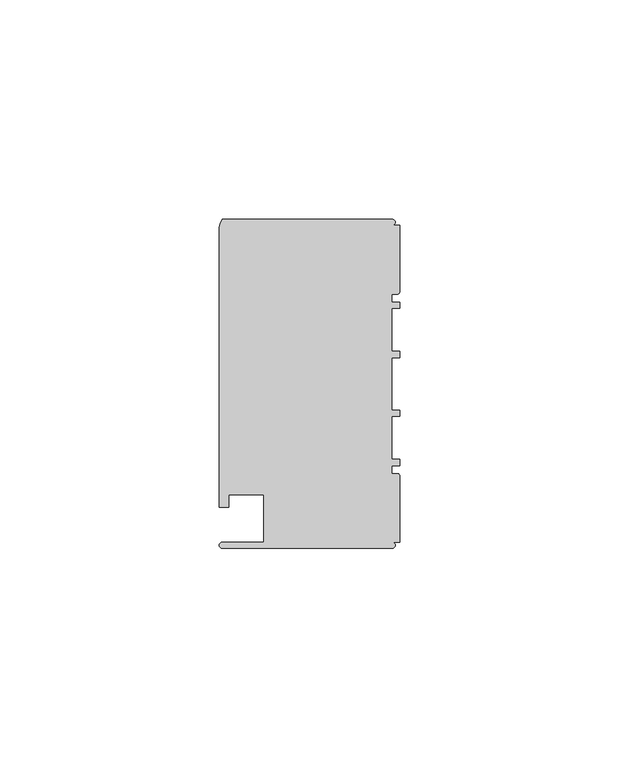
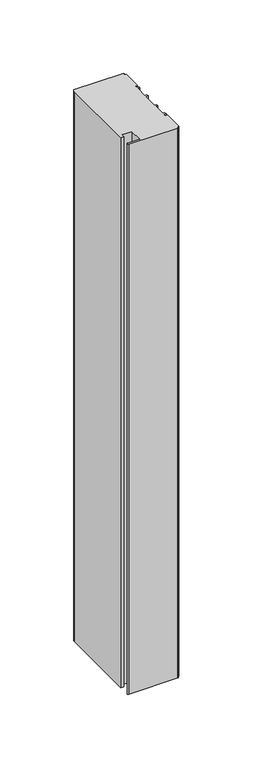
"""IFC4 building model written with IfcOpenShell, lengths in millimetres: member geometry, Прямоугольный импост : 1-AMG-1-Профиль 40Х75 Низ Л."""

from ifc_helpers import new_model, si_unit, point, frame, frame_2d, origin, place, context, project, spatial, polyline, circle_curve, trimmed, segment, composite_curve, outline, extrude, source, transform, mapped, element, save


def member_cfd8de3d(model_context):
    return source(origin(), model_context, "Body", "SweptSolid", [
        extrude(outline(composite_curve([segment(polyline([(-1.7, -37.5), (-40.4, -37.5)]), True, "CONTINUOUS"), segment(trimmed(circle_curve(frame_2d((-40.4, -36.8)), 0.7), [point((-40.4, -37.5))], [point((-40.4, -36.1))], False, "CARTESIAN"), True, "CONTINUOUS"), segment(polyline([(-40.4, -36.1), (-31.0, -36.1), (-31.0, -25.25), (-39.0, -25.25), (-39.0, -28.1), (-41.1, -28.1), (-41.1, 35.6)]), True, "CONTINUOUS"), segment(trimmed(circle_curve(frame_2d((-38.1714286, 35.6)), 2.9285714), [point((-41.1, 35.6))], [point((-40.4, 37.5))], False, "CARTESIAN"), True, "CONTINUOUS"), segment(polyline([(-40.4, 37.5), (-1.7, 37.5)]), True, "CONTINUOUS"), segment(trimmed(circle_curve(frame_2d((-1.7, 36.8)), 0.7), [point((-1.7, 37.5))], [point((-1.7, 36.1))], False, "CARTESIAN"), True, "CONTINUOUS"), segment(polyline([(-1.7, 36.1), (0.0, 36.1), (0.0, 20.95)]), True, "CONTINUOUS"), segment(trimmed(circle_curve(frame_2d((-0.5, 20.95)), 0.5), [point((0.0, 20.95))], [point((-0.5, 20.45))], False, "CARTESIAN"), True, "CONTINUOUS"), segment(polyline([(-0.5, 20.45), (-1.8, 20.45), (-1.8, 18.65), (0.0, 18.65), (0.0, 17.25), (-1.8, 17.25), (-1.8, 7.4), (0.0, 7.4), (0.0, 6.0), (-1.8, 6.0), (-1.8, -6.0), (0.0, -6.0), (0.0, -7.4), (-1.8, -7.4), (-1.8, -17.25), (0.0, -17.25), (0.0, -18.65), (-1.8, -18.65), (-1.8, -20.45), (-0.5, -20.45)]), True, "CONTINUOUS"), segment(trimmed(circle_curve(frame_2d((-0.5, -20.95)), 0.5), [point((-0.5, -20.45))], [point((0.0, -20.95))], False, "CARTESIAN"), True, "CONTINUOUS"), segment(polyline([(0.0, -20.95), (0.0, -36.1), (-1.7, -36.1)]), True, "CONTINUOUS"), segment(trimmed(circle_curve(frame_2d((-1.7, -36.8)), 0.7), [point((-1.7, -36.1))], [point((-1.7, -37.5))], False, "CARTESIAN"), True, "CONTINUOUS")], self_intersect=False)), frame((0.0, 0.0, -460.0), z_axis=(0.0, 0.0, 1.0), x_axis=(1.0, 0.0, 0.0)), (0.0, 0.0, 1.0), 460.0),
    ])


if __name__ == "__main__":
    model = new_model("IFC4")
    model_context = context("Model", 3, world=origin())
    ifc_project = project(units=[si_unit("LENGTHUNIT", "METRE", prefix="MILLI")], contexts=[model_context])
    site = spatial("IfcSite", under=ifc_project)
    building = spatial("IfcBuilding", under=site)
    placement = place(None, origin())
    member_shape = member_cfd8de3d(model_context)
    element("IfcMember", 1, ObjectType="Прямоугольный импост : 1-AMG-1-Профиль 40Х75 Низ Л", at=placement, inside=building, context=model_context, shape_type="MappedRepresentation", body=[
        mapped(member_shape, transform((0.0, 0.0, 0.0), x_axis=(1.0, 0.0, 0.0), y_axis=(0.0, 1.0, 0.0), z_axis=(0.0, 0.0, 1.0))),
    ])
    save(model, "model.ifc")
